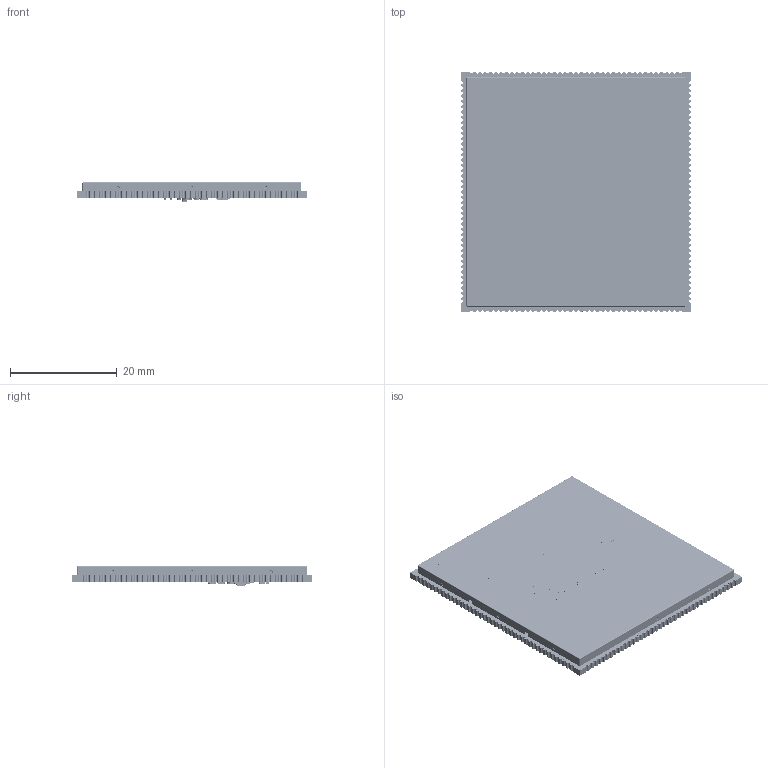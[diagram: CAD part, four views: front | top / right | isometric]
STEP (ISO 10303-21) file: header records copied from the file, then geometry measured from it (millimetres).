
FILE_DESCRIPTION (( 'STEP AP214' ), '1' );
FILE_NAME ('MYC-YA157X-0424-1.STEP', '2022-04-24T09:11:42', ( '' ), ( '' ), 'SwSTEP 2.0', 'SolidWorks 2022', '' );
FILE_SCHEMA (( 'AUTOMOTIVE_DESIGN' ));
Length unit declared in the file: millimetre
Products named in the file (38): R0402-0.STEP; OSCCC320X250X80L90X100.STEP; C0603.STEP; MYC-YA157X-0424.STEP; YOUPK43X45_1_00-SMD.STEP; VSON10.STEP; TEST0_8-SMD.STEP; C0402-1.STEP; SOT-23-3.STEP; User Library-nr3015.STEP; L2X2_5.STEP; TSOT23-5.STEP; PIECE05.STEP; TSOT23-8.STEP; User Library-FB_1005.STEP; TFBGA361_12X12.STEP; FB0402.STEP; 3215.STEP; Cut.STEP; SOT23-5.STEP; QFN40-0_4.STEP; C0603-2.STEP; Pad001.STEP; R0402.STEP; MYC-YA157X-0424-1; FB0603.STEP; myc-ya157c-PCBA.STEP; shield-myc-ya157c-end.STEP; TSOP48.STEP; BGA153.STEP; SOT-23.STEP; OS3225.STEP; C0402.STEP; SHIELDING.STEP; L3_2X3_2.STEP; FBGA96.STEP; COMPONENTS.STEP; SOT-457.STEP
Assembly tree (232 placements, depth 6):
  MYC-YA157X-0424-1
    MYC-YA157X-0424.STEP
      COMPONENTS.STEP
        YOUPK43X45_1_00-SMD.STEP
          myc-ya157c-PCBA.STEP
        SHIELDING.STEP
          shield-myc-ya157c-end.STEP
        FB0402.STEP
          User Library-FB_1005.STEP
            Cut.STEP
            Pad001.STEP
        L3_2X3_2.STEP
          User Library-nr3015.STEP
        R0402.STEP  x79
          R0402-0.STEP
        C0402.STEP  x93
          C0402-1.STEP
        C0603.STEP  x16
          C0603-2.STEP
        OS3225.STEP  x2
          OSCCC320X250X80L90X100.STEP
        SOT-23.STEP  x3
          SOT-23-3.STEP
        TEST0_8-SMD.STEP  x3
          PIECE05.STEP
        BGA153.STEP
        SOT23-5.STEP
        TFBGA361_12X12.STEP
        SOT-457.STEP
        FB0603.STEP  x2
        TSOT23-5.STEP  x2
        QFN40-0_4.STEP
        VSON10.STEP
        TSOT23-8.STEP
        3215.STEP
        TSOP48.STEP
        FBGA96.STEP  x2
        L2X2_5.STEP  x3
Bounding box: 43 x 45 x 3.71 mm (x, y, z)
Volume: 2681.5 mm3; surface area: 11496.4 mm2
Topology: 483 solids, 580 shells, 34922 faces, 93823 edges, 63083 vertices
Faces by surface type: plane 15107, bspline 13468, cylinder 5867, torus 472, sphere 8
Entity records: 149752 total; most frequent: CARTESIAN_POINT 56564, ORIENTED_EDGE 18104, DIRECTION 13285, EDGE_CURVE 9069, LINE 6043, VECTOR 6043, VERTEX_POINT 5815, EDGE_LOOP 3622
